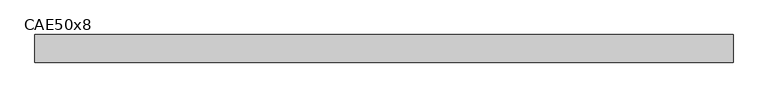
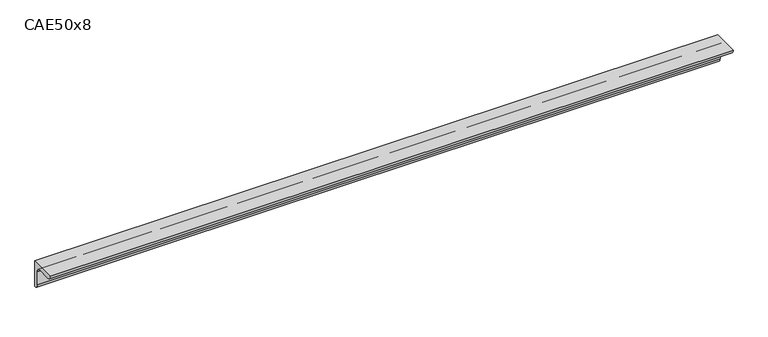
"""IFC4 building model written with IfcOpenShell, lengths in millimetres: beam geometry, L-Cornières : CAE50x8."""

from ifc_helpers import new_model, si_unit, point, frame, frame_2d, origin, place, context, project, spatial, polyline, circle_curve, trimmed, segment, composite_curve, outline, extrude, source, transform, mapped, element, save


def cae50x8_841b36eb(model_context):
    return source(origin(), model_context, "Body", "SweptSolid", [
        extrude(outline(composite_curve([segment(polyline([(15.2, 15.2), (15.2, -34.8)]), True, "CONTINUOUS"), segment(trimmed(circle_curve(frame_2d((15.2, -26.8)), 8.0), [point((15.2, -34.8))], [point((7.2, -26.8))], False, "CARTESIAN"), True, "CONTINUOUS"), segment(polyline([(7.2, -26.8), (7.2, -0.8)]), True, "CONTINUOUS"), segment(trimmed(circle_curve(frame_2d((-0.8, -0.8)), 8.0), [point((7.2, -0.8))], [point((-0.8, 7.2))], True, "CARTESIAN"), True, "CONTINUOUS"), segment(polyline([(-0.8, 7.2), (-26.8, 7.2)]), True, "CONTINUOUS"), segment(trimmed(circle_curve(frame_2d((-26.8, 15.2)), 8.0), [point((-26.8, 7.2))], [point((-34.8, 15.2))], False, "CARTESIAN"), True, "CONTINUOUS"), segment(polyline([(-34.8, 15.2), (15.2, 15.2)]), True, "CONTINUOUS")], self_intersect=False)), frame((-637.0, 0.0, 0.0), z_axis=(1.0, 0.0, 0.0), x_axis=(0.0, 1.0, 0.0)), (0.0, 0.0, 1.0), 1265.0),
    ])


if __name__ == "__main__":
    model = new_model("IFC4")
    model_context = context("Model", 3, world=origin())
    ifc_project = project(units=[si_unit("LENGTHUNIT", "METRE", prefix="MILLI")], contexts=[model_context])
    site = spatial("IfcSite", under=ifc_project)
    building = spatial("IfcBuilding", under=site)
    placement = place(None, origin())
    cae50x8_shape = cae50x8_841b36eb(model_context)
    element("IfcBeam", 1, ObjectType="L-Cornières : CAE50x8", at=placement, inside=building, context=model_context, shape_type="MappedRepresentation", body=[
        mapped(cae50x8_shape, transform((0.0, 0.0, 0.0), x_axis=(1.0, 0.0, 0.0), y_axis=(0.0, 1.0, 0.0), z_axis=(0.0, 0.0, 1.0))),
    ])
    save(model, "model.ifc")
